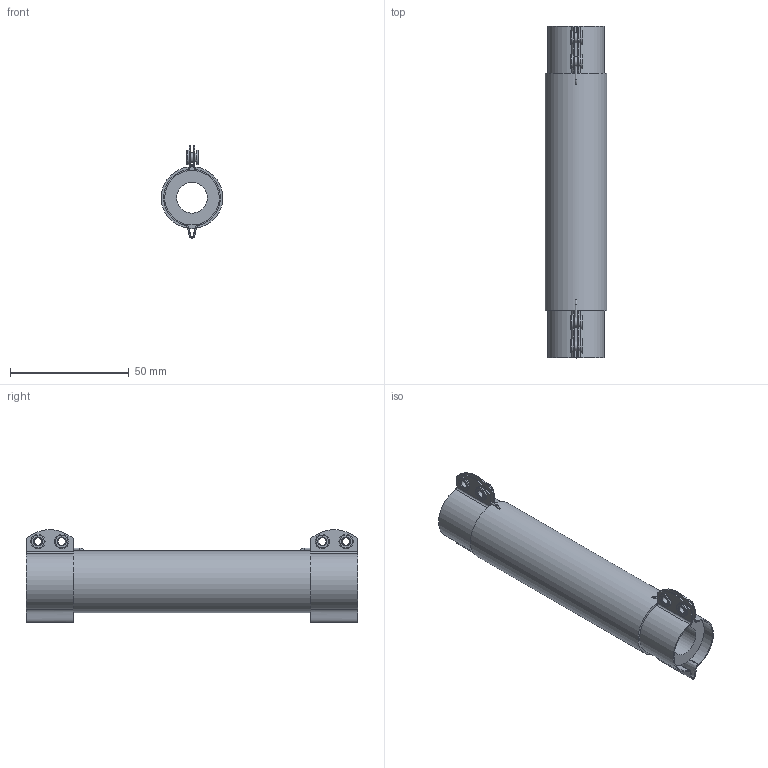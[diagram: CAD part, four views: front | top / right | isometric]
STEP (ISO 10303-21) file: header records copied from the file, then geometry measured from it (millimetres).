
FILE_DESCRIPTION(/* description */ (''),/* implementation_level */ '2;1');
FILE_NAME(/* name */ 'C:\_Vault\Dati\CATALOGO\RC-RS\TF\RS1090.stp',/* time_stamp */ '2014-01-29T14:37:52+01:00',/* author */ ('stefano'),/* organization */ (''),/* preprocessor_version */ 'ST-DEVELOPER v15.2',/* originating_system */ 'Autodesk Inventor 2014',/* authorisation */ '');
FILE_SCHEMA (('AUTOMOTIVE_DESIGN { 1 0 10303 214 3 1 1 }'));
Length unit declared in the file: millimetre
Products named in the file (1): RS1090
Bounding box: 25.95 x 140 x 39.03 mm (x, y, z)
Volume: 50390.7 mm3; surface area: 21030.7 mm2
Topology: 1 solids, 5 shells, 134 faces, 309 edges, 195 vertices
Faces by surface type: cylinder 54, plane 54, torus 18, bspline 8
Full cylindrical faces by diameter (mm): 0.4 x2, 0.8 x4, 3.2 x4, 4.2 x8, 6 x8, 13 x1, 26 x1
Entity records: 4179 total; most frequent: CARTESIAN_POINT 1115, DIRECTION 610, ORIENTED_EDGE 512, AXIS2_PLACEMENT_3D 263, EDGE_CURVE 256, EDGE_LOOP 216, VERTEX_POINT 188, CIRCLE 136
